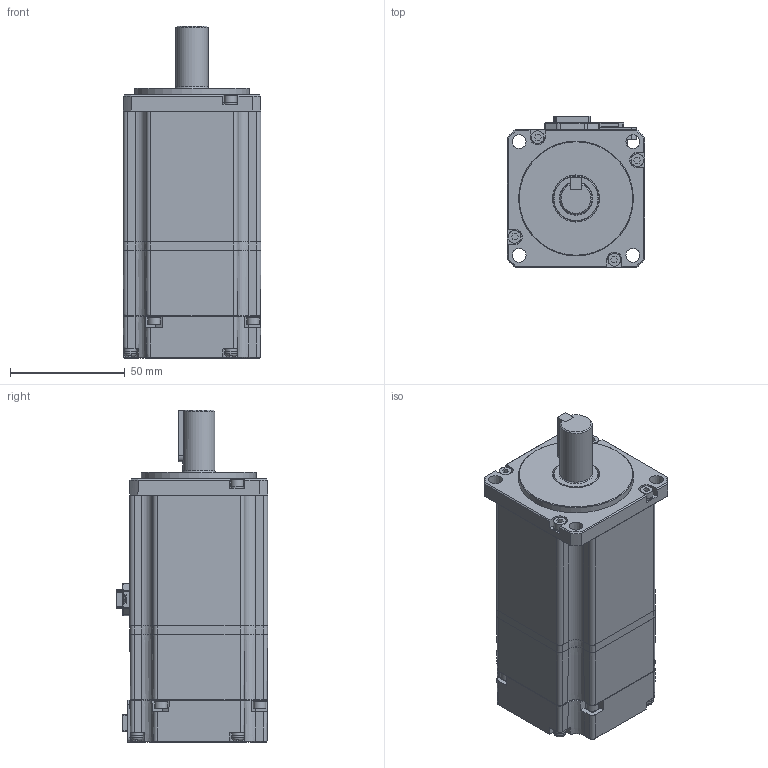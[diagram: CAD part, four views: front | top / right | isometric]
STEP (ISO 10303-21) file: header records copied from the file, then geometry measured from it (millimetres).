
FILE_DESCRIPTION (( 'STEP AP214' ), '1' );
FILE_NAME ('EM06GA002G03_Out Line(APM-EB04AM3K2).STEP', '2022-11-03T08:10:19', ( '' ), ( '' ), 'SwSTEP 2.0', 'SolidWorks 2021', '' );
FILE_SCHEMA (( 'AUTOMOTIVE_DESIGN' ));
Length unit declared in the file: millimetre
Products named in the file (1): EM06GA002G03_Out Line(APM-EB04AM3K2)
Bounding box: 60 x 65.9 x 144.5 mm (x, y, z)
Volume: 377132.2 mm3; surface area: 73589.8 mm2
Topology: 35 solids, 35 shells, 1566 faces, 3942 edges, 2509 vertices
Faces by surface type: plane 1121, cylinder 239, cone 143, torus 31, bspline 18, sphere 14
Full cylindrical faces by diameter (mm): 1.6 x10, 2 x2, 2.1 x2, 2.5 x16, 3 x16, 3.1 x8, 3.5 x4, 5.4 x8, 5.5 x8, 5.6 x8, 14 x1, 19.8 x1, 20.5 x1, 50 x1
Entity records: 63641 total; most frequent: CARTESIAN_POINT 9449, ORIENTED_EDGE 7480, DIRECTION 7243, EDGE_CURVE 3740, LINE 2773, VECTOR 2773, VERTEX_POINT 2454, AXIS2_PLACEMENT_3D 2235
